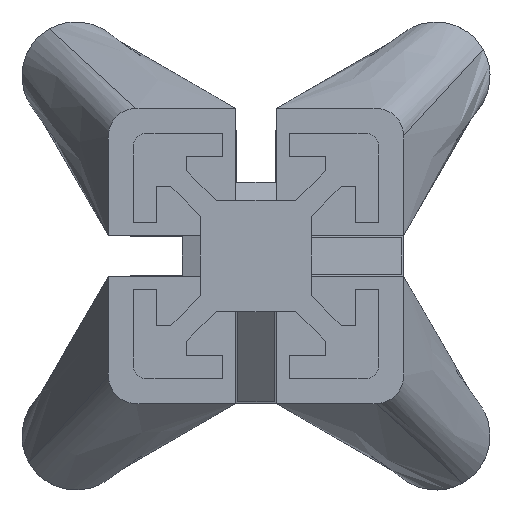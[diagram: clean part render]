
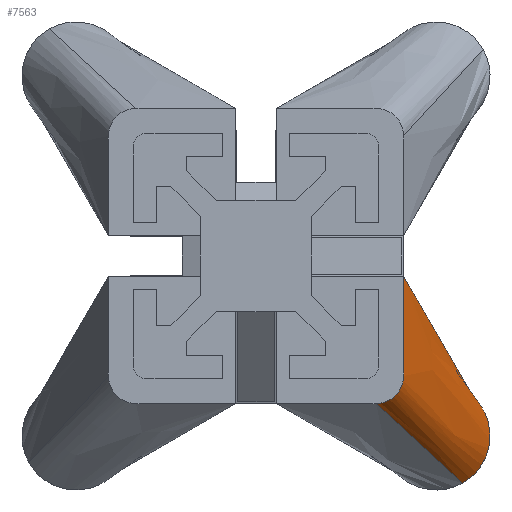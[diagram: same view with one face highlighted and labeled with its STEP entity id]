
A CAD part, front view. The second image highlights one B-rep face of the part: STEP entity #7563.
In plain terms, the highlighted free-form (B-spline) face has degree [3, 3] with [13, 4] control points.
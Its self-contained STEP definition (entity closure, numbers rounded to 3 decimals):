
#66=B_SPLINE_SURFACE_WITH_KNOTS('',3,3,((#12405,#12406,#12407,#12408),(#12409,
#12410,#12411,#12412),(#12413,#12414,#12415,#12416),(#12417,#12418,#12419,
#12420),(#12421,#12422,#12423,#12424),(#12425,#12426,#12427,#12428),(#12429,
#12430,#12431,#12432),(#12433,#12434,#12435,#12436),(#12437,#12438,#12439,
#12440),(#12441,#12442,#12443,#12444),(#12445,#12446,#12447,#12448),(#12449,
#12450,#12451,#12452),(#12453,#12454,#12455,#12456)),.UNSPECIFIED.,.F.,
 .F.,.F.,(4,1,1,1,2,1,1,1,1,4),(4,4),(0.,0.139,0.279,
0.418,0.697,0.757,0.818,
0.879,0.939,1.),(0.,1.),.UNSPECIFIED.);
#458=FACE_OUTER_BOUND('',#870,.T.);
#870=EDGE_LOOP('',(#5942,#5943,#5944,#5945,#5946,#5947));
#1118=CIRCLE('',#8014,4.5);
#1119=CIRCLE('',#8015,4.5);
#1120=CIRCLE('',#8016,2.3);
#1741=LINE('',#12463,#2601);
#1742=LINE('',#12465,#2602);
#1743=LINE('',#12468,#2603);
#2601=VECTOR('',#9287,18.958);
#2602=VECTOR('',#9288,10.);
#2603=VECTOR('',#9291,17.906);
#3348=VERTEX_POINT('',#12457);
#3349=VERTEX_POINT('',#12458);
#3350=VERTEX_POINT('',#12460);
#3351=VERTEX_POINT('',#12462);
#3352=VERTEX_POINT('',#12464);
#3353=VERTEX_POINT('',#12466);
#4286=EDGE_CURVE('',#3348,#3349,#1118,.T.);
#4287=EDGE_CURVE('',#3349,#3350,#1119,.T.);
#4288=EDGE_CURVE('',#3350,#3351,#1741,.T.);
#4289=EDGE_CURVE('',#3352,#3351,#1742,.T.);
#4290=EDGE_CURVE('',#3352,#3353,#1120,.T.);
#4291=EDGE_CURVE('',#3348,#3353,#1743,.T.);
#5942=ORIENTED_EDGE('',*,*,#4286,.T.);
#5943=ORIENTED_EDGE('',*,*,#4287,.T.);
#5944=ORIENTED_EDGE('',*,*,#4288,.T.);
#5945=ORIENTED_EDGE('',*,*,#4289,.F.);
#5946=ORIENTED_EDGE('',*,*,#4290,.T.);
#5947=ORIENTED_EDGE('',*,*,#4291,.F.);
#7563=ADVANCED_FACE('',(#458),#66,.F.);
#8014=AXIS2_PLACEMENT_3D('',#12459,#9283,#9284);
#8015=AXIS2_PLACEMENT_3D('',#12461,#9285,#9286);
#8016=AXIS2_PLACEMENT_3D('',#12467,#9289,#9290);
#9283=DIRECTION('center_axis',(0.,-1.,0.));
#9284=DIRECTION('ref_axis',(0.,0.,-1.));
#9285=DIRECTION('center_axis',(0.,-1.,0.));
#9286=DIRECTION('ref_axis',(0.,0.,-1.));
#9287=DIRECTION('',(-0.306,-0.791,0.529));
#9288=DIRECTION('',(0.,0.,1.));
#9289=DIRECTION('center_axis',(0.,1.,0.));
#9290=DIRECTION('ref_axis',(1.,0.,0.));
#9291=DIRECTION('',(-0.401,-0.838,0.371));
#12405=CARTESIAN_POINT('Ctrl Pts',(18.1,15.,-11.738));
#12406=CARTESIAN_POINT('Ctrl Pts',(16.167,10.,-8.392));
#12407=CARTESIAN_POINT('Ctrl Pts',(14.233,5.,-5.046));
#12408=CARTESIAN_POINT('Ctrl Pts',(12.3,0.,-1.7));
#12409=CARTESIAN_POINT('Ctrl Pts',(18.384,15.,-12.008));
#12410=CARTESIAN_POINT('Ctrl Pts',(16.356,10.,-8.757));
#12411=CARTESIAN_POINT('Ctrl Pts',(14.328,5.,-5.505));
#12412=CARTESIAN_POINT('Ctrl Pts',(12.3,0.,-2.253));
#12413=CARTESIAN_POINT('Ctrl Pts',(18.905,15.,-12.647));
#12414=CARTESIAN_POINT('Ctrl Pts',(16.703,10.,-9.551));
#12415=CARTESIAN_POINT('Ctrl Pts',(14.502,5.,-6.456));
#12416=CARTESIAN_POINT('Ctrl Pts',(12.3,0.,-3.36));
#12417=CARTESIAN_POINT('Ctrl Pts',(19.411,15.,-13.837));
#12418=CARTESIAN_POINT('Ctrl Pts',(17.041,10.,-10.898));
#12419=CARTESIAN_POINT('Ctrl Pts',(14.67,5.,-7.959));
#12420=CARTESIAN_POINT('Ctrl Pts',(12.3,0.,-5.02));
#12421=CARTESIAN_POINT('Ctrl Pts',(19.612,15.,-15.577));
#12422=CARTESIAN_POINT('Ctrl Pts',(17.175,10.,-12.796));
#12423=CARTESIAN_POINT('Ctrl Pts',(14.737,5.,-10.014));
#12424=CARTESIAN_POINT('Ctrl Pts',(12.3,0.,-7.233));
#12425=CARTESIAN_POINT('Ctrl Pts',(19.192,15.,-16.815));
#12426=CARTESIAN_POINT('Ctrl Pts',(16.894,10.,-14.174));
#12427=CARTESIAN_POINT('Ctrl Pts',(14.598,5.,-11.535));
#12428=CARTESIAN_POINT('Ctrl Pts',(12.3,0.,-8.894));
#12429=CARTESIAN_POINT('Ctrl Pts',(18.678,15.,-17.598));
#12430=CARTESIAN_POINT('Ctrl Pts',(16.553,10.,-15.146));
#12431=CARTESIAN_POINT('Ctrl Pts',(14.426,5.,-12.693));
#12432=CARTESIAN_POINT('Ctrl Pts',(12.3,0.,-10.241));
#12433=CARTESIAN_POINT('Ctrl Pts',(18.484,15.,-17.863));
#12434=CARTESIAN_POINT('Ctrl Pts',(16.396,10.,-15.493));
#12435=CARTESIAN_POINT('Ctrl Pts',(14.309,5.,-13.123));
#12436=CARTESIAN_POINT('Ctrl Pts',(12.222,0.,-10.753));
#12437=CARTESIAN_POINT('Ctrl Pts',(18.167,15.,-18.208));
#12438=CARTESIAN_POINT('Ctrl Pts',(16.055,10.,-15.962));
#12439=CARTESIAN_POINT('Ctrl Pts',(13.944,5.,-13.714));
#12440=CARTESIAN_POINT('Ctrl Pts',(11.832,0.,-11.468));
#12441=CARTESIAN_POINT('Ctrl Pts',(17.836,15.,-18.503));
#12442=CARTESIAN_POINT('Ctrl Pts',(15.635,10.,-16.332));
#12443=CARTESIAN_POINT('Ctrl Pts',(13.434,5.,-14.162));
#12444=CARTESIAN_POINT('Ctrl Pts',(11.233,0.,-11.991));
#12445=CARTESIAN_POINT('Ctrl Pts',(17.504,15.,-18.746));
#12446=CARTESIAN_POINT('Ctrl Pts',(15.191,10.,-16.585));
#12447=CARTESIAN_POINT('Ctrl Pts',(12.877,5.,-14.424));
#12448=CARTESIAN_POINT('Ctrl Pts',(10.564,0.,-12.263));
#12449=CARTESIAN_POINT('Ctrl Pts',(17.288,15.,-18.877));
#12450=CARTESIAN_POINT('Ctrl Pts',(14.915,10.,-16.684));
#12451=CARTESIAN_POINT('Ctrl Pts',(12.541,5.,-14.492));
#12452=CARTESIAN_POINT('Ctrl Pts',(10.168,0.,-12.3));
#12453=CARTESIAN_POINT('Ctrl Pts',(17.183,15.,-18.935));
#12454=CARTESIAN_POINT('Ctrl Pts',(14.789,10.,-16.723));
#12455=CARTESIAN_POINT('Ctrl Pts',(12.394,5.,-14.512));
#12456=CARTESIAN_POINT('Ctrl Pts',(10.,0.,-12.3));
#12457=CARTESIAN_POINT('',(17.183,15.,-18.935));
#12458=CARTESIAN_POINT('',(18.722,15.,-12.471));
#12459=CARTESIAN_POINT('Origin',(15.,15.,-15.));
#12460=CARTESIAN_POINT('',(18.1,15.,-11.738));
#12461=CARTESIAN_POINT('Origin',(15.,15.,-15.));
#12462=CARTESIAN_POINT('',(12.3,0.,-1.7));
#12463=CARTESIAN_POINT('',(18.1,15.,-11.738));
#12464=CARTESIAN_POINT('',(12.3,0.,-10.));
#12465=CARTESIAN_POINT('',(12.3,0.,-10.));
#12466=CARTESIAN_POINT('',(10.,0.,-12.3));
#12467=CARTESIAN_POINT('Origin',(10.,0.,-10.));
#12468=CARTESIAN_POINT('',(17.183,15.,-18.935));
